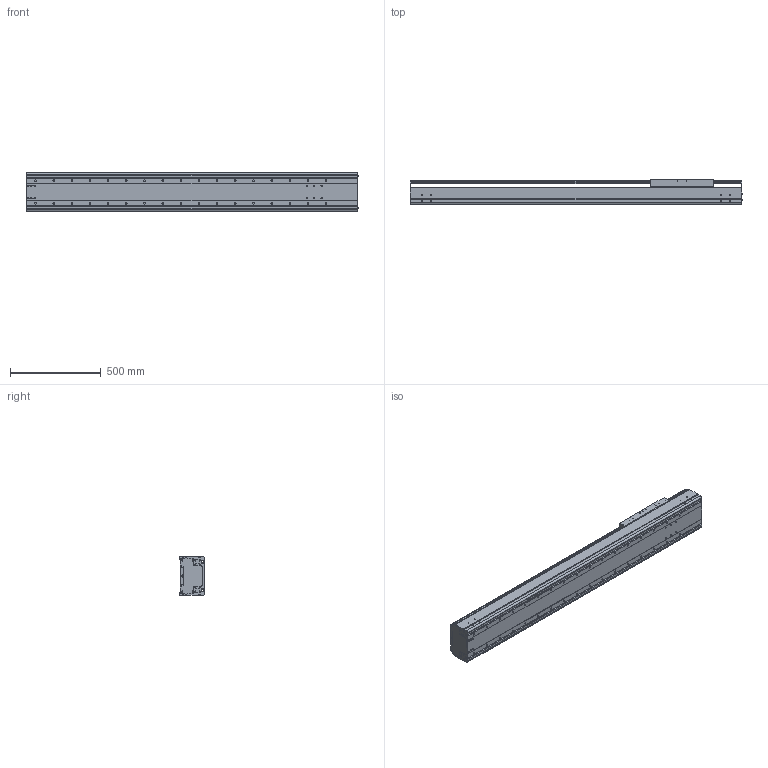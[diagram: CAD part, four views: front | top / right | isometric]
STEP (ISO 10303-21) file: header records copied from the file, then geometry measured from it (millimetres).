
FILE_DESCRIPTION((''),'2;1');
FILE_NAME('BE60J-ST-L_B-C5_IGS_PRT','2017-06-18T',(' '),(''),'PRO/ENGINEER BY PARAMETRIC TECHNOLOGY CORPORATION, 2015030','PRO/ENGINEER BY PARAMETRIC TECHNOLOGY CORPORATION, 2015030','');
FILE_SCHEMA(('CONFIG_CONTROL_DESIGN'));
Length unit declared in the file: millimetre
Products named in the file (1): BE60J-ST-L_B-C5_IGS_PRT
Bounding box: 1827.4 x 140 x 214 mm (x, y, z)
Volume: 14538120 mm3; surface area: 3835027.8 mm2
Topology: 2 solids, 32 shells, 1155 faces, 3048 edges, 1962 vertices
Faces by surface type: plane 535, cylinder 512, cone 60, sphere 24, torus 24
Entity records: 36065 total; most frequent: CARTESIAN_POINT 6734, DIRECTION 6298, ORIENTED_EDGE 5864, EDGE_CURVE 2988, AXIS2_PLACEMENT_3D 2272, VERTEX_POINT 1960, VECTOR 1754, LINE 1754
